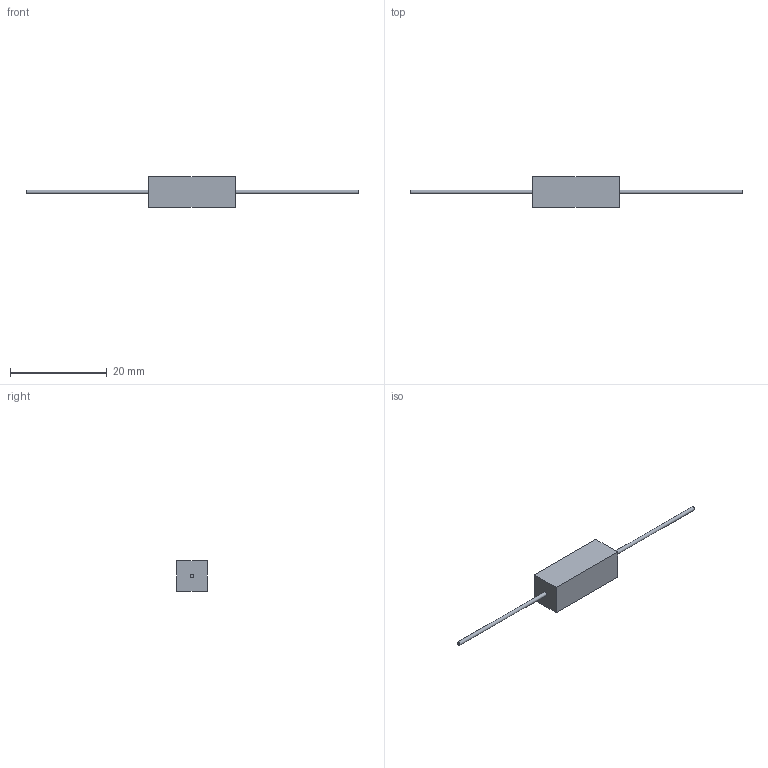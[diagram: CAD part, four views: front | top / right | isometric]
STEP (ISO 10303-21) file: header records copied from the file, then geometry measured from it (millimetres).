
FILE_DESCRIPTION(/* description */ (''),/* implementation_level */ '2;1');
FILE_NAME(/* name */ 'C:\Users\mulla\Documents\SEI Models\Inventor Files\CB\CB2_stp.stp',/* time_stamp */ '2019-06-27T14:45:09-04:00',/* author */ ('mulla'),/* organization */ (''),/* preprocessor_version */ 'ST-DEVELOPER v16.1',/* originating_system */ 'Autodesk Inventor 2016',/* authorisation */ '');
FILE_SCHEMA (('AUTOMOTIVE_DESIGN { 1 0 10303 214 3 1 1 }'));
Length unit declared in the file: millimetre
Products named in the file (1): CB2
Bounding box: 68.8 x 6.4 x 6.4 mm (x, y, z)
Volume: 762.8 mm3; surface area: 672.4 mm2
Topology: 3 solids, 3 shells, 12 faces, 18 edges, 12 vertices
Faces by surface type: plane 10, cylinder 2
Full cylindrical faces by diameter (mm): 0.8 x2
Entity records: 278 total; most frequent: DIRECTION 46, CARTESIAN_POINT 41, ORIENTED_EDGE 32, AXIS2_PLACEMENT_3D 17, EDGE_CURVE 16, EDGE_LOOP 14, FACE_OUTER_BOUND 12, LINE 12
